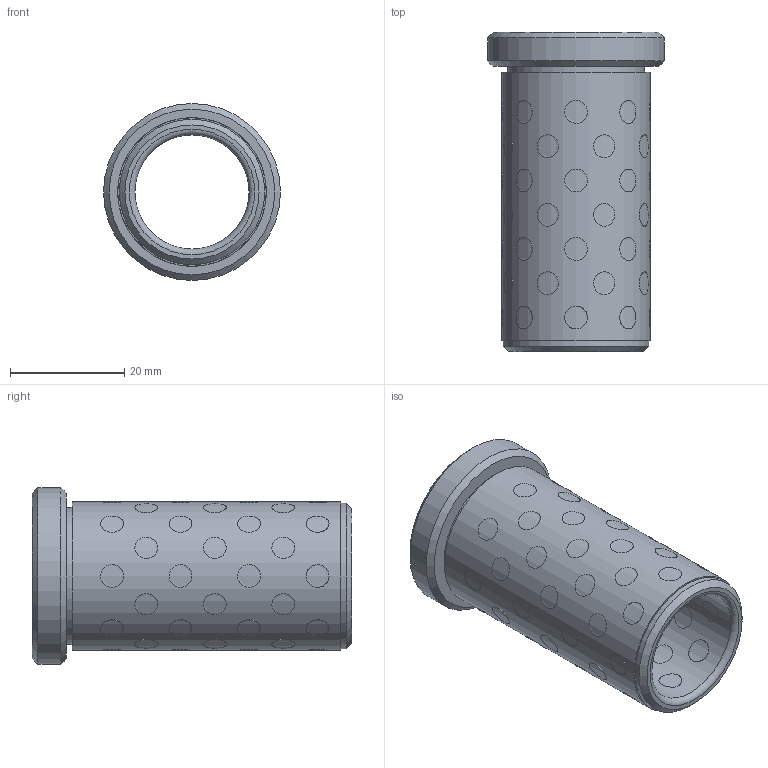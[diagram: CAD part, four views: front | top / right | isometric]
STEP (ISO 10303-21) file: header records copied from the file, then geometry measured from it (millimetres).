
FILE_DESCRIPTION( ( 'STEP AP203' ), '1' );
FILE_NAME( 'D:/Cuma/D30.05/D30.05_2056.step', '2003-01-20T18:34:13', ( ' ' ), ( ' ' ), 'XStep 1.0', ' ', ' ' );
FILE_SCHEMA( ( 'CONFIG_CONTROL_DESIGN' ) );
Length unit declared in the file: metre
Products named in the file (73): 1; 2; 3; 4; 5; 6; 7; 8; 9; 10; 11; 12; 13; 14; 15; 16; 17; 18; 19; 20; 21; 22; 23; 24; 25; 26; 27; 28; 29; 30; 31; 32; 33; 34; 35; 36; 37; 38; 39; 40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
Bounding box: 31 x 56 x 31 mm (x, y, z)
Volume: 15883.6 mm3; surface area: 13524.6 mm2
Topology: 73 solids, 73 shells, 231 faces, 241 edges, 159 vertices
Faces by surface type: cylinder 221, plane 5, cone 3, torus 2
Full cylindrical faces by diameter (mm): 4 x72, 20 x1, 24 x1, 25.5 x1, 26 x1, 31 x1
Entity records: 14465 total; most frequent: CARTESIAN_POINT 8398, DIRECTION 638, CC_DESIGN_PERSON_AND_ORGANIZATION_ASSIGNMENT 365, AXIS2_PLACEMENT_3D 319, EDGE_LOOP 318, ORIENTED_EDGE 318, FACE_OUTER_BOUND 310, PERSON_AND_ORGANIZATION_ROLE 292
